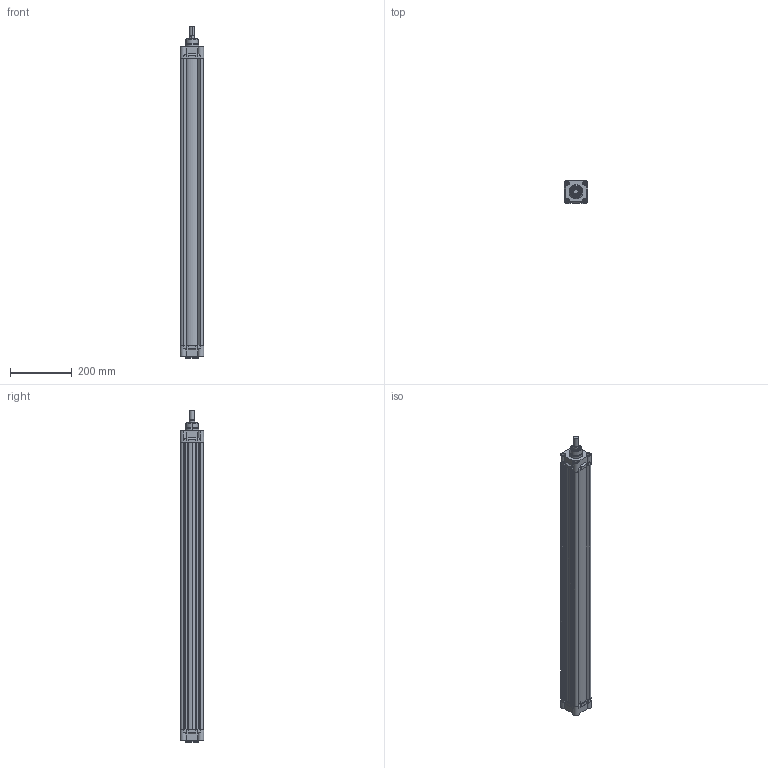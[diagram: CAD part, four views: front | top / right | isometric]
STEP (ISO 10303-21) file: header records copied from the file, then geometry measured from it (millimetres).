
FILE_DESCRIPTION (( 'STEP AP214' ), '1' );
FILE_NAME ('RIC_63_900_WEB.STEP', '2020-07-18T16:39:02', ( '' ), ( '' ), 'SwSTEP 2.0', 'SolidWorks 2018', '' );
FILE_SCHEMA (( 'AUTOMOTIVE_DESIGN' ));
Length unit declared in the file: millimetre
Products named in the file (7): 63_BORU_WEB; 20_K_MIL_WEB; ric63yastikkecesi; ric63onkapak; ric63arkakapak; ric63bogazkecesi; RIC_63_900_WEB
Assembly tree (7 placements, depth 2):
  RIC_63_900_WEB
    63_BORU_WEB
    ric63onkapak
    ric63arkakapak
    ric63bogazkecesi
    ric63yastikkecesi  x2
    20_K_MIL_WEB
Bounding box: 76 x 76 x 1078 mm (x, y, z)
Volume: 1844037.4 mm3; surface area: 697886 mm2
Topology: 7 solids, 7 shells, 709 faces, 1751 edges, 1102 vertices
Faces by surface type: plane 280, cylinder 220, torus 134, cone 56, bspline 19
Entity records: 21075 total; most frequent: CARTESIAN_POINT 4906, DIRECTION 3090, ORIENTED_EDGE 2910, EDGE_CURVE 1455, AXIS2_PLACEMENT_3D 1135, VERTEX_POINT 925, LINE 820, VECTOR 820
